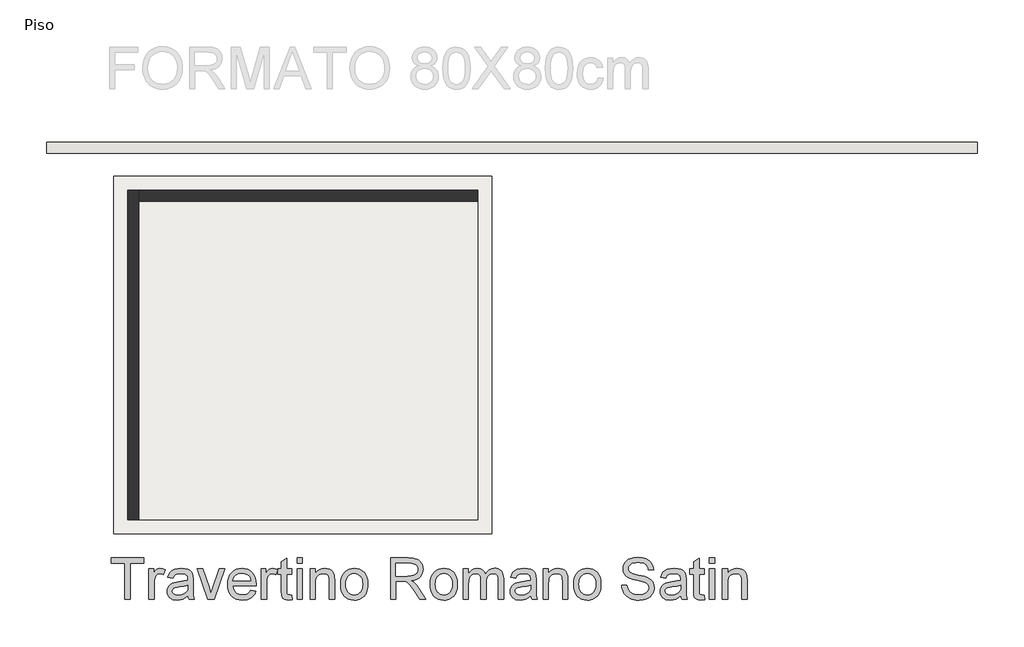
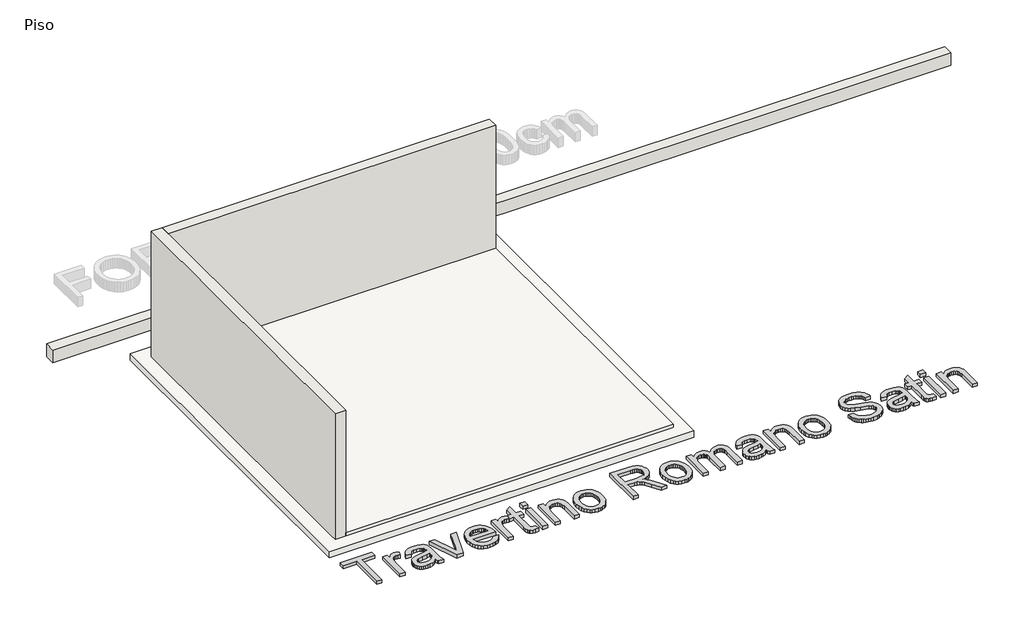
# One storey, part 1 of 2: 3 walls, 2 slabs, 1 proxy.
"""IFC4 building model written with IfcOpenShell, lengths in millimetres."""

from ifc_helpers import new_model, si_unit, frame, origin, origin_with_axes, place, context, project, spatial, polyline, outline, extrude, faceted_brep, element, save

model = new_model("IFC4")

# Units and contexts
model_context = context("Model", 3, world=origin())
ifc_project = project(units=[si_unit("LENGTHUNIT", "METRE", prefix="MILLI")], contexts=[model_context])

# Site, building, storey
site = spatial("IfcSite", under=ifc_project)
building = spatial("IfcBuilding", under=site)
storey = spatial("IfcBuildingStorey", under=building, Name="Piso", Elevation=0.0)

# Proxy
placement = place(None, origin())
element("IfcBuildingElementProxy", 1, Name="600mm Arial", ObjectType="600mm Arial", at=placement, inside=storey, context=model_context, shape_type="SweptSolid", body=[
    extrude(outline(polyline([(92823.490474, -4703.9716349), (92823.490474, -4176.5760066), (92625.7171133, -4176.5760066), (92625.7171133, -4101.233774), (93096.6060672, -4101.233774), (93096.6060672, -4176.5760066), (92898.8327066, -4176.5760066), (92898.8327066, -4703.9716349), (92823.490474, -4703.9716349)])), origin_with_axes(), (0.0, 0.0, 1.0), 50.0),
    extrude(outline(polyline([(93171.9482998, -4703.9716349), (93171.9482998, -4261.3360183), (93237.8727533, -4261.3360183), (93237.8727533, -4326.8190134), (93262.2265414, -4288.8535915), (93284.6673431, -4266.4863662), (93307.1817212, -4255.560271), (93331.7562385, -4251.9182392), (93369.280202, -4257.7307747), (93407.3927767, -4275.1683813), (93382.2296482, -4342.7115156), (93355.7421446, -4331.1232328), (93329.2546409, -4327.2604718), (93306.7586569, -4330.97608), (93286.6539059, -4342.1229044), (93270.4119158, -4359.8548166), (93259.5042146, -4383.3256879), (93250.343953, -4425.4113881), (93247.2905324, -4471.3230611), (93247.2905324, -4703.9716349), (93171.9482998, -4703.9716349)])), origin_with_axes(), (0.0, 0.0, 1.0), 50.0),
    extrude(outline(polyline([(93737.0150444, -4647.4649604), (93701.0177911, -4678.3302598), (93663.9536801, -4698.5269814), (93624.9765827, -4709.6738058), (93583.2403704, -4713.389414), (93549.694131, -4711.1545309), (93520.2773669, -4704.4498815), (93494.9900783, -4693.2754659), (93473.832265, -4677.631284), (93457.1258239, -4658.5106173), (93445.1926517, -4636.9067472), (93438.0327484, -4612.8196735), (93435.6461139, -4586.2493964), (93439.2513575, -4555.016215), (93450.0670881, -4526.6525132), (93466.7505366, -4502.3723015), (93487.9589336, -4483.3895906), (93512.8829388, -4469.0421928), (93540.7132118, -4458.6679205), (93605.9019013, -4447.3371551), (93682.9363911, -4435.4177784), (93736.573586, -4421.4382626), (93737.0150444, -4404.6628436), (93731.8279082, -4371.0384293), (93725.3439881, -4358.5856237), (93716.2664998, -4349.0390859), (93700.5763328, -4339.5109423), (93681.4648631, -4332.7051254), (93632.9780161, -4327.2604718), (93588.0964127, -4330.8841095), (93556.7528667, -4341.7550224), (93535.3789228, -4361.8597735), (93520.4061256, -4393.1849254), (93445.063893, -4383.7671463), (93458.1420979, -4342.5643628), (93477.6582378, -4310.1907473), (93505.4333284, -4285.432289), (93543.2883857, -4267.0749774), (93589.5863348, -4255.7074238), (93642.6901008, -4251.9182392), (93693.623363, -4255.2659654), (93733.998412, -4265.3091438), (93764.4406471, -4280.4106997), (93785.5754677, -4298.9335582), (93799.5917718, -4321.8342124), (93808.678457, -4350.0691555), (93812.357277, -4415.9936091), (93812.357277, -4509.7299414), (93816.1832497, -4640.6223553), (93821.8486325, -4672.9775768), (93831.1928351, -4703.9716349), (93755.8506025, -4703.9716349), (93743.7840731, -4677.7784368), (93737.0150444, -4647.4649604)]), holes=[polyline([(93737.0150444, -4496.7804952), (93686.3944818, -4509.3252712), (93615.4668332, -4519.8834845), (93550.6460256, -4532.0971667), (93533.7786361, -4540.448088), (93521.2890424, -4551.9627945), (93513.5635205, -4565.7583693), (93510.9883465, -4580.9518957), (93516.598547, -4603.3559092), (93533.4291482, -4621.7132208), (93561.1122684, -4633.9636912), (93599.2800254, -4638.0471814), (93639.7470449, -4633.5406269), (93675.5051748, -4620.0209636), (93704.494276, -4600.1001536), (93724.6542093, -4576.390159), (93733.5937418, -4551.9627945), (93736.573586, -4518.1176509), (93737.0150444, -4496.7804952)])]), origin_with_axes(), (0.0, 0.0, 1.0), 50.0),
    extrude(outline(polyline([(94024.5516118, -4703.9716349), (93868.8639514, -4261.3360183), (93948.620768, -4261.3360183), (94042.9457116, -4526.5053604), (94071.3462016, -4615.6799561), (94099.1580804, -4531.5085556), (94194.0716352, -4261.3360183), (94273.8284517, -4261.3360183), (94120.0537778, -4703.9716349), (94024.5516118, -4703.9716349)])), origin_with_axes(), (0.0, 0.0, 1.0), 50.0),
    extrude(outline(polyline([(94649.656698, -4572.1227278), (94723.5274026, -4581.5405069), (94712.2012357, -4611.1274164), (94696.9111403, -4637.2010528), (94677.6571164, -4659.7614161), (94654.4391639, -4678.8085064), (94627.4964063, -4693.9376535), (94597.0679668, -4704.7441871), (94563.1538454, -4711.2281073), (94525.754042, -4713.389414), (94479.0054375, -4709.6600102), (94437.3519986, -4698.4717991), (94400.7937253, -4679.8247804), (94369.3306177, -4653.7189544), (94344.0295335, -4620.8808878), (94325.9573305, -4582.0371476), (94315.1140086, -4537.1877339), (94311.499568, -4486.3326465), (94315.1507968, -4433.7531124), (94326.1044833, -4387.409178), (94344.3606273, -4347.3008435), (94369.9192289, -4313.4281088), (94401.2995631, -4286.5175409), (94437.0209048, -4267.2957066), (94477.0832541, -4255.7626061), (94521.4866109, -4251.9182392), (94564.4598265, -4255.753409), (94603.3219607, -4267.2589184), (94638.0730137, -4286.4347674), (94668.7129854, -4313.280956), (94693.7243625, -4347.0801143), (94711.5896319, -4387.1148725), (94722.3087935, -4433.3852304), (94725.8818474, -4485.8911882), (94725.440389, -4506.1982743), (94386.8418007, -4506.1982743), (94391.2058008, -4536.2634303), (94399.8832174, -4562.5945841), (94412.8740503, -4585.1917357), (94430.1782997, -4604.054885), (94450.8394722, -4618.9265147), (94473.9010748, -4629.5491073), (94499.3631074, -4635.9226628), (94527.22557, -4638.0471814), (94567.3247075, -4634.110844), (94601.0962746, -4622.301832), (94628.5402715, -4601.8843812), (94649.656698, -4572.1227278)]), holes=[polyline([(94386.8418007, -4430.8560417), (94650.5396148, -4430.8560417), (94640.3492835, -4391.0512098), (94631.584495, -4375.3978309), (94620.3732912, -4362.5771434), (94599.8270818, -4347.1260996), (94576.448181, -4336.0896397), (94550.2365888, -4329.4677638), (94521.1923053, -4327.2604718), (94494.7002031, -4329.0217069), (94470.4061959, -4334.305412), (94448.3102835, -4343.1115873), (94428.4124661, -4355.4402327), (94411.7152221, -4370.721131), (94399.2210298, -4388.3840653), (94390.9298893, -4408.4290355), (94386.8418007, -4430.8560417)])]), origin_with_axes(), (0.0, 0.0, 1.0), 50.0),
    extrude(outline(polyline([(94801.22408, -4703.9716349), (94801.22408, -4261.3360183), (94867.1485336, -4261.3360183), (94867.1485336, -4326.8190134), (94891.5023216, -4288.8535915), (94913.9431233, -4266.4863662), (94936.4575015, -4255.560271), (94961.0320187, -4251.9182392), (94998.5559822, -4257.7307747), (95036.6685569, -4275.1683813), (95011.5054285, -4342.7115156), (94985.0179248, -4331.1232328), (94958.5304212, -4327.2604718), (94936.0344372, -4330.97608), (94915.9296861, -4342.1229044), (94899.687696, -4359.8548166), (94888.7799949, -4383.3256879), (94879.6197332, -4425.4113881), (94876.5663126, -4471.3230611), (94876.5663126, -4703.9716349), (94801.22408, -4703.9716349)])), origin_with_axes(), (0.0, 0.0, 1.0), 50.0),
    extrude(outline(polyline([(95243.8596966, -4641.1373901), (95253.2774757, -4706.1789269), (95196.917954, -4713.389414), (95160.7551539, -4710.262417), (95133.7894037, -4700.8814261), (95114.7331163, -4686.4236637), (95102.2987049, -4668.0663522), (95095.4560998, -4636.5388652), (95093.1752314, -4582.5705765), (95093.1752314, -4336.6782509), (95036.6685569, -4336.6782509), (95036.6685569, -4275.1683813), (95036.6685569, -4261.3360183), (95093.1752314, -4261.3360183), (95093.1752314, -4153.7673229), (95168.517464, -4109.4743307), (95168.517464, -4261.3360183), (95243.8596966, -4261.3360183), (95243.8596966, -4336.6782509), (95168.517464, -4336.6782509), (95168.517464, -4580.3632845), (95172.4905896, -4619.2116232), (95185.3664594, -4632.9704098), (95196.2373723, -4636.7779885), (95211.0446227, -4638.0471814), (95243.8596966, -4641.1373901)])), origin_with_axes(), (0.0, 0.0, 1.0), 50.0),
    extrude(outline(polyline([(95319.2019292, -4176.5760066), (95319.2019292, -4101.233774), (95394.5441618, -4101.233774), (95394.5441618, -4176.5760066), (95319.2019292, -4176.5760066)])), origin_with_axes(), (0.0, 0.0, 1.0), 50.0),
    extrude(outline(polyline([(95319.2019292, -4703.9716349), (95319.2019292, -4261.3360183), (95394.5441618, -4261.3360183), (95394.5441618, -4703.9716349), (95319.2019292, -4703.9716349)])), origin_with_axes(), (0.0, 0.0, 1.0), 50.0),
    extrude(outline(polyline([(95507.5575108, -4703.9716349), (95507.5575108, -4261.3360183), (95582.8997434, -4261.3360183), (95582.8997434, -4323.1401935), (95609.0745473, -4291.9805885), (95640.5100638, -4269.7237278), (95677.2062928, -4256.3696114), (95719.1632344, -4251.9182392), (95756.3009218, -4255.5050887), (95790.3116123, -4266.265637), (95818.6753141, -4282.857115), (95838.8720356, -4303.9367533), (95852.5756399, -4329.4493697), (95861.4599901, -4359.3397818), (95865.4331157, -4432.1804169), (95865.4331157, -4703.9716349), (95790.0908831, -4703.9716349), (95790.0908831, -4442.3339599), (95787.9203793, -4403.3752566), (95781.408868, -4375.6737424), (95769.3975208, -4355.8265088), (95750.7275096, -4340.4306473), (95726.7967858, -4330.5530157), (95699.0033011, -4327.2604718), (95676.1256395, -4329.1090789), (95654.8758557, -4334.6548999), (95635.2539498, -4343.8979351), (95617.2599217, -4356.8381842), (95602.2273437, -4374.9471755), (95591.489788, -4399.6964367), (95585.0472545, -4431.0859679), (95582.8997434, -4469.1157692), (95582.8997434, -4703.9716349), (95507.5575108, -4703.9716349)])), origin_with_axes(), (0.0, 0.0, 1.0), 50.0),
    extrude(outline(polyline([(95950.1931274, -4482.6538266), (95954.2674205, -4425.3286147), (95966.4902997, -4375.9312598), (95986.8617652, -4334.4617619), (96015.3818169, -4300.920121), (96044.0950066, -4279.4817977), (96075.7880405, -4264.1687097), (96110.4609186, -4254.9808568), (96148.1136408, -4251.9182392), (96189.6797077, -4255.6476429), (96227.263452, -4266.8358541), (96260.8648738, -4285.4828728), (96290.4839729, -4311.5886988), (96314.6584185, -4344.2704156), (96331.9258797, -4382.6451062), (96342.2863563, -4426.7127707), (96345.7398486, -4476.4734091), (96344.2131383, -4516.8024728), (96339.6330075, -4552.5881939), (96331.9994561, -4583.8305723), (96321.3124841, -4610.5296081), (96307.7054488, -4633.5912107), (96291.3117074, -4653.9212895), (96272.1312599, -4671.5198444), (96250.1641062, -4686.3868755), (96226.2655721, -4698.2004861), (96201.2909832, -4706.6387794), (96175.2403394, -4711.7017553), (96148.1136408, -4713.389414), (96105.9405685, -4709.6738058), (96068.0073363, -4698.5269814), (96034.3139441, -4679.9489406), (96004.8603918, -4653.9396836), (95980.9434636, -4620.9406686), (95963.8599435, -4581.3933541), (95953.6098314, -4535.2977401), (95950.1931274, -4482.6538266)]), holes=[polyline([(96025.53536, -4482.5066738), (96027.7150608, -4519.0511515), (96034.2541633, -4550.6936016), (96045.1526674, -4577.4340241), (96060.4105731, -4599.2724191), (96078.9702198, -4616.2363776), (96099.7739466, -4628.3534908), (96122.8217536, -4635.6237587), (96148.1136408, -4638.0471814), (96173.2767692, -4635.6099631), (96196.2326057, -4628.2983085), (96216.9811503, -4616.1122174), (96235.5224028, -4599.0516899), (96250.7803086, -4576.9971643), (96261.6788127, -4549.8290789), (96268.2179151, -4517.5474338), (96270.397616, -4480.152229), (96268.2041196, -4444.7665796), (96261.6236304, -4413.951864), (96250.6561484, -4387.7080822), (96235.3016736, -4366.0352341), (96216.6914432, -4349.0712756), (96195.9566942, -4336.9541624), (96173.0974268, -4329.6838945), (96148.1136408, -4327.2604718), (96122.8217536, -4329.6746974), (96099.7739466, -4336.9173742), (96078.9702198, -4348.9885022), (96060.4105731, -4365.8880813), (96045.1526674, -4387.6620969), (96034.2541633, -4414.3565342), (96027.7150608, -4445.9713932), (96025.53536, -4482.5066738)])]), origin_with_axes(), (0.0, 0.0, 1.0), 50.0),
    extrude(outline(polyline([(96675.3621163, -4703.9716349), (96675.3621163, -4101.233774), (96935.0868048, -4101.233774), (97004.8924134, -4105.29887), (97055.6785229, -4117.4941582), (97075.2774362, -4127.1878488), (97092.7978162, -4140.0085363), (97108.2396629, -4155.9562208), (97121.6029764, -4175.0309022), (97132.3865174, -4196.2071096), (97140.0890467, -4218.4593718), (97144.7105642, -4241.7876888), (97146.2510701, -4266.1920606), (97143.6988887, -4297.1493305), (97136.0423447, -4325.5682147), (97123.281438, -4351.448713), (97105.4161686, -4374.7908256), (97082.2166103, -4394.8495914), (97053.4528368, -4410.8800493), (97019.1248481, -4422.8821994), (96979.2326443, -4430.8560417), (97004.0646789, -4447.0796377), (97022.0541085, -4463.0825045), (97052.9194079, -4499.686763), (97083.1225197, -4540.632029), (97183.6278808, -4703.9716349), (97096.0719659, -4703.9716349), (97017.6395246, -4579.0389093), (96960.9856973, -4496.3390368), (96939.9244531, -4472.224372), (96921.1808654, -4457.2699689), (96885.3491591, -4442.9225711), (96841.6447781, -4440.2738208), (96750.7043489, -4440.2738208), (96750.7043489, -4703.9716349), (96675.3621163, -4703.9716349)]), holes=[polyline([(96750.7043489, -4364.9315881), (96919.3414555, -4364.9315881), (96967.7731201, -4362.2644437), (97005.3522659, -4354.2630103), (97033.6423914, -4340.3938591), (97054.2069949, -4320.1235611), (97066.7333768, -4295.6042262), (97070.9088375, -4268.9879638), (97068.9176762, -4249.7201443), (97062.9441923, -4232.2365525), (97052.9883858, -4216.5371883), (97039.0502567, -4202.6220519), (97020.8079082, -4191.2269071), (96997.9394437, -4183.0875179), (96970.4448631, -4178.2038844), (96938.3241664, -4176.5760066), (96750.7043489, -4176.5760066), (96750.7043489, -4364.9315881)])]), origin_with_axes(), (0.0, 0.0, 1.0), 50.0),
    extrude(outline(polyline([(97249.8466399, -4482.6538266), (97253.920933, -4425.3286147), (97266.1438123, -4375.9312598), (97286.5152778, -4334.4617619), (97315.0353295, -4300.920121), (97343.7485192, -4279.4817977), (97375.4415531, -4264.1687097), (97410.1144311, -4254.9808568), (97447.7671533, -4251.9182392), (97489.3332203, -4255.6476429), (97526.9169646, -4266.8358541), (97560.5183863, -4285.4828728), (97590.1374855, -4311.5886988), (97614.3119311, -4344.2704156), (97631.5793922, -4382.6451062), (97641.9398689, -4426.7127707), (97645.3933611, -4476.4734091), (97643.8666509, -4516.8024728), (97639.28652, -4552.5881939), (97631.6529686, -4583.8305723), (97620.9659967, -4610.5296081), (97607.3589614, -4633.5912107), (97590.9652199, -4653.9212895), (97571.7847724, -4671.5198444), (97549.8176188, -4686.3868755), (97525.9190847, -4698.2004861), (97500.9444957, -4706.6387794), (97474.8938519, -4711.7017553), (97447.7671533, -4713.389414), (97405.5940811, -4709.6738058), (97367.6608489, -4698.5269814), (97333.9674566, -4679.9489406), (97304.5139044, -4653.9396836), (97280.5969762, -4620.9406686), (97263.513456, -4581.3933541), (97253.263344, -4535.2977401), (97249.8466399, -4482.6538266)]), holes=[polyline([(97325.1888725, -4482.5066738), (97327.3685734, -4519.0511515), (97333.9076758, -4550.6936016), (97344.8061799, -4577.4340241), (97360.0640857, -4599.2724191), (97378.6237323, -4616.2363776), (97399.4274592, -4628.3534908), (97422.4752662, -4635.6237587), (97447.7671533, -4638.0471814), (97472.9302818, -4635.6099631), (97495.8861183, -4628.2983085), (97516.6346628, -4616.1122174), (97535.1759154, -4599.0516899), (97550.4338211, -4576.9971643), (97561.3323252, -4549.8290789), (97567.8714277, -4517.5474338), (97570.0511285, -4480.152229), (97567.8576321, -4444.7665796), (97561.2771429, -4413.951864), (97550.309661, -4387.7080822), (97534.9551862, -4366.0352341), (97516.3449558, -4349.0712756), (97495.6102068, -4336.9541624), (97472.7509393, -4329.6838945), (97447.7671533, -4327.2604718), (97422.4752662, -4329.6746974), (97399.4274592, -4336.9173742), (97378.6237323, -4348.9885022), (97360.0640857, -4365.8880813), (97344.8061799, -4387.6620969), (97333.9076758, -4414.3565342), (97327.3685734, -4445.9713932), (97325.1888725, -4482.5066738)])]), origin_with_axes(), (0.0, 0.0, 1.0), 50.0),
    extrude(outline(polyline([(97730.1533728, -4703.9716349), (97730.1533728, -4261.3360183), (97805.4956054, -4261.3360183), (97805.4956054, -4334.1766533), (97828.1571363, -4300.7177859), (97857.2933904, -4274.5061937), (97891.9110861, -4257.5652278), (97931.0169422, -4251.9182392), (97972.9187014, -4257.6755924), (97990.7517812, -4264.872284), (98006.5063276, -4274.9476521), (98031.5958797, -4302.5939841), (98048.0034167, -4339.4741541), (98075.4658076, -4301.1684413), (98106.7909595, -4273.8072179), (98141.9788723, -4257.3904839), (98181.0295461, -4251.9182392), (98211.1912712, -4254.1945091), (98237.6649793, -4261.0233186), (98260.4506703, -4272.4046678), (98279.5483444, -4288.3385567), (98294.6453018, -4309.0089263), (98305.4288428, -4334.5997176), (98311.8989674, -4365.1109306), (98314.0556756, -4400.5425653), (98314.0556756, -4703.9716349), (98238.713443, -4703.9716349), (98238.713443, -4432.9161809), (98236.9660035, -4395.337035), (98231.723685, -4370.0083597), (98221.9012358, -4352.6627236), (98206.4134038, -4339.0326957), (98186.4925937, -4330.2035278), (98163.3712103, -4327.2604718), (98142.020259, -4329.1458671), (98122.554703, -4334.8020527), (98104.9745421, -4344.2290289), (98089.2797765, -4357.4267954), (98076.371717, -4374.7816286), (98067.1516745, -4396.6798043), (98061.619649, -4423.1213227), (98059.7756405, -4454.1061838), (98059.7756405, -4703.9716349), (97984.4334079, -4703.9716349), (97984.4334079, -4424.5284714), (97980.0740062, -4381.9277363), (97974.6247542, -4365.2074996), (97966.9958013, -4351.5406835), (97956.883645, -4340.9180909), (97943.9847825, -4333.3305248), (97928.299214, -4328.7779851), (97909.8269393, -4327.2604718), (97880.8010498, -4331.3071738), (97854.0560288, -4343.4472796), (97831.9831091, -4363.3864838), (97816.9735237, -4390.8304806), (97808.365085, -4428.9062671), (97805.4956054, -4480.7408402), (97805.4956054, -4703.9716349), (97730.1533728, -4703.9716349)])), origin_with_axes(), (0.0, 0.0, 1.0), 50.0),
    extrude(outline(polyline([(98709.6023968, -4647.4649604), (98673.6051436, -4678.3302598), (98636.5410325, -4698.5269814), (98597.5639352, -4709.6738058), (98555.8277228, -4713.389414), (98522.2814834, -4711.1545309), (98492.8647193, -4704.4498815), (98467.5774307, -4693.2754659), (98446.4196174, -4677.631284), (98429.7131763, -4658.5106173), (98417.7800041, -4636.9067472), (98410.6201008, -4612.8196735), (98408.2334663, -4586.2493964), (98411.8387099, -4555.016215), (98422.6544405, -4526.6525132), (98439.337889, -4502.3723015), (98460.546286, -4483.3895906), (98485.4702912, -4469.0421928), (98513.3005642, -4458.6679205), (98578.4892537, -4447.3371551), (98655.5237435, -4435.4177784), (98709.1609384, -4421.4382626), (98709.6023968, -4404.6628436), (98704.4152607, -4371.0384293), (98697.9313405, -4358.5856237), (98688.8538523, -4349.0390859), (98673.1636852, -4339.5109423), (98654.0522155, -4332.7051254), (98605.5653685, -4327.2604718), (98560.6837651, -4330.8841095), (98529.3402191, -4341.7550224), (98507.9662752, -4361.8597735), (98492.993478, -4393.1849254), (98417.6512454, -4383.7671463), (98430.7294503, -4342.5643628), (98450.2455902, -4310.1907473), (98478.0206808, -4285.432289), (98515.8757381, -4267.0749774), (98562.1736872, -4255.7074238), (98615.2774532, -4251.9182392), (98666.2107155, -4255.2659654), (98706.5857644, -4265.3091438), (98737.0279995, -4280.4106997), (98758.1628201, -4298.9335582), (98772.1791242, -4321.8342124), (98781.2658094, -4350.0691555), (98784.9446294, -4415.9936091), (98784.9446294, -4509.7299414), (98788.7706021, -4640.6223553), (98794.4359849, -4672.9775768), (98803.7801875, -4703.9716349), (98728.4379549, -4703.9716349), (98716.3714255, -4677.7784368), (98709.6023968, -4647.4649604)]), holes=[polyline([(98709.6023968, -4496.7804952), (98658.9818342, -4509.3252712), (98588.0541856, -4519.8834845), (98523.233378, -4532.0971667), (98506.3659885, -4540.448088), (98493.8763948, -4551.9627945), (98486.1508729, -4565.7583693), (98483.5756989, -4580.9518957), (98489.1858994, -4603.3559092), (98506.0165007, -4621.7132208), (98533.6996208, -4633.9636912), (98571.8673778, -4638.0471814), (98612.3343973, -4633.5406269), (98648.0925272, -4620.0209636), (98677.0816284, -4600.1001536), (98697.2415617, -4576.390159), (98706.1810942, -4551.9627945), (98709.1609384, -4518.1176509), (98709.6023968, -4496.7804952)])]), origin_with_axes(), (0.0, 0.0, 1.0), 50.0),
    extrude(outline(polyline([(98888.5401992, -4703.9716349), (98888.5401992, -4261.3360183), (98963.8824318, -4261.3360183), (98963.8824318, -4323.1401935), (98990.0572358, -4291.9805885), (99021.4927523, -4269.7237278), (99058.1889813, -4256.3696114), (99100.1459229, -4251.9182392), (99137.2836103, -4255.5050887), (99171.2943007, -4266.265637), (99199.6580026, -4282.857115), (99219.8547241, -4303.9367533), (99233.5583284, -4329.4493697), (99242.4426786, -4359.3397818), (99246.4158041, -4432.1804169), (99246.4158041, -4703.9716349), (99171.0735715, -4703.9716349), (99171.0735715, -4442.3339599), (99168.9030678, -4403.3752566), (99162.3915564, -4375.6737424), (99150.3802093, -4355.8265088), (99131.710198, -4340.4306473), (99107.7794743, -4330.5530157), (99079.9859895, -4327.2604718), (99057.108328, -4329.1090789), (99035.8585442, -4334.6548999), (99016.2366383, -4343.8979351), (98998.2426102, -4356.8381842), (98983.2100322, -4374.9471755), (98972.4724764, -4399.6964367), (98966.029943, -4431.0859679), (98963.8824318, -4469.1157692), (98963.8824318, -4703.9716349), (98888.5401992, -4703.9716349)])), origin_with_axes(), (0.0, 0.0, 1.0), 50.0),
    extrude(outline(polyline([(99331.1758158, -4482.6538266), (99335.2501089, -4425.3286147), (99347.4729882, -4375.9312598), (99367.8444537, -4334.4617619), (99396.3645054, -4300.920121), (99425.0776951, -4279.4817977), (99456.770729, -4264.1687097), (99491.443607, -4254.9808568), (99529.0963292, -4251.9182392), (99570.6623962, -4255.6476429), (99608.2461405, -4266.8358541), (99641.8475622, -4285.4828728), (99671.4666614, -4311.5886988), (99695.641107, -4344.2704156), (99712.9085681, -4382.6451062), (99723.2690448, -4426.7127707), (99726.722537, -4476.4734091), (99725.1958268, -4516.8024728), (99720.6156959, -4552.5881939), (99712.9821445, -4583.8305723), (99702.2951726, -4610.5296081), (99688.6881373, -4633.5912107), (99672.2943959, -4653.9212895), (99653.1139483, -4671.5198444), (99631.1467947, -4686.3868755), (99607.2482606, -4698.2004861), (99582.2736716, -4706.6387794), (99556.2230279, -4711.7017553), (99529.0963292, -4713.389414), (99486.923257, -4709.6738058), (99448.9900248, -4698.5269814), (99415.2966326, -4679.9489406), (99385.8430803, -4653.9396836), (99361.9261521, -4620.9406686), (99344.842632, -4581.3933541), (99334.5925199, -4535.2977401), (99331.1758158, -4482.6538266)]), holes=[polyline([(99406.5180484, -4482.5066738), (99408.6977493, -4519.0511515), (99415.2368517, -4550.6936016), (99426.1353558, -4577.4340241), (99441.3932616, -4599.2724191), (99459.9529082, -4616.2363776), (99480.7566351, -4628.3534908), (99503.8044421, -4635.6237587), (99529.0963292, -4638.0471814), (99554.2594577, -4635.6099631), (99577.2152942, -4628.2983085), (99597.9638387, -4616.1122174), (99616.5050913, -4599.0516899), (99631.762997, -4576.9971643), (99642.6615011, -4549.8290789), (99649.2006036, -4517.5474338), (99651.3803044, -4480.152229), (99649.186808, -4444.7665796), (99642.6063189, -4413.951864), (99631.6388369, -4387.7080822), (99616.2843621, -4366.0352341), (99597.6741317, -4349.0712756), (99576.9393827, -4336.9541624), (99554.0801152, -4329.6838945), (99529.0963292, -4327.2604718), (99503.8044421, -4329.6746974), (99480.7566351, -4336.9173742), (99459.9529082, -4348.9885022), (99441.3932616, -4365.8880813), (99426.1353558, -4387.6620969), (99415.2368517, -4414.3565342), (99408.6977493, -4445.9713932), (99406.5180484, -4482.5066738)])]), origin_with_axes(), (0.0, 0.0, 1.0), 50.0),
    extrude(outline(polyline([(100028.0914675, -4496.7804952), (100103.4337001, -4496.7804952), (100112.078927, -4538.590284), (100127.7139118, -4572.1963042), (100152.1044881, -4598.8677489), (100187.0164894, -4619.8738108), (100229.6908009, -4633.5038387), (100277.3683074, -4638.0471814), (100319.3436431, -4634.6074847), (100356.0950544, -4624.2883947), (100385.8751019, -4607.9544342), (100406.9363461, -4586.4701256), (100419.4627281, -4561.8036379), (100423.6381887, -4535.9231395), (100420.5111918, -4510.7048287), (100411.1302009, -4488.9078205), (100392.0739135, -4470.3113857), (100359.9210271, -4454.694795), (100250.2186162, -4425.9264229), (100178.2057156, -4406.8885297), (100132.1284957, -4388.7703414), (100094.6229263, -4363.423272), (100068.0434522, -4332.7051254), (100052.2061323, -4297.2780892), (100046.9270256, -4257.8043511), (100048.559502, -4235.368148), (100053.4569311, -4213.6769058), (100061.6193128, -4192.7306247), (100073.0466473, -4172.5293047), (100087.6101758, -4153.8960816), (100105.1811396, -4137.6540915), (100125.7595387, -4123.8033344), (100149.3453731, -4112.3438103), (100202.3571686, -4096.9479488), (100261.0343468, -4091.8159949), (100324.6043556, -4097.1870721), (100380.2281133, -4113.3003034), (100404.5635073, -4125.3024535), (100425.9190571, -4139.8245953), (100444.2947627, -4156.8667287), (100459.6906242, -4176.4288538), (100471.9870799, -4197.9407535), (100481.0645682, -4220.8322106), (100486.9230889, -4245.1032253), (100489.5626422, -4270.7537974), (100414.2204096, -4270.7537974), (100409.1804263, -4246.712709), (100400.3880466, -4225.7986176), (100387.8432706, -4208.0115231), (100371.5460982, -4193.3514256), (100351.1930268, -4181.8919014), (100326.4805538, -4173.706527), (100297.4086791, -4168.7953024), (100263.9774028, -4167.1582275), (100229.4792687, -4168.7769083), (100200.0027238, -4173.6329506), (100175.5477682, -4181.7263545), (100156.1144018, -4193.05712), (100141.3071515, -4206.6779509), (100130.7305442, -4221.641551), (100124.3845797, -4237.9479205), (100122.2692583, -4255.5970592), (100123.7683774, -4270.7813885), (100128.2657348, -4284.5493722), (100135.7613304, -4296.9010102), (100146.2551643, -4307.8363025), (100162.7730659, -4318.1921807), (100188.782323, -4328.6584234), (100269.2749035, -4349.9220027), (100352.342658, -4370.1187243), (100402.5953386, -4387.7402718), (100445.5455615, -4415.0739041), (100462.1508351, -4431.1411502), (100475.50955, -4448.808683), (100485.7780562, -4467.984532), (100493.1127035, -4488.5767267), (100498.9804213, -4534.0101531), (100497.2927627, -4557.5775934), (100492.2297867, -4580.455255), (100483.7914934, -4602.6431378), (100471.9778829, -4624.1412419), (100456.9958886, -4644.1172343), (100439.0524443, -4661.7387819), (100418.1475499, -4677.0058846), (100394.2812055, -4689.9185427), (100368.1477883, -4700.1870489), (100340.4416755, -4707.5216961), (100280.3113634, -4713.389414), (100241.7711259, -4711.8075214), (100206.4958411, -4707.0618437), (100174.485509, -4699.1523808), (100145.7401296, -4688.0791327), (100120.0849589, -4673.8237054), (100097.3452531, -4656.3677047), (100077.5210121, -4635.7111307), (100060.6122359, -4611.8539833), (100046.991405, -4585.5688147), (100037.031, -4557.6281772), (100030.7310208, -4528.0320707), (100028.0914675, -4496.7804952)])), origin_with_axes(), (0.0, 0.0, 1.0), 50.0),
    extrude(outline(polyline([(100885.1093635, -4647.4649604), (100849.1121102, -4678.3302598), (100812.0479992, -4698.5269814), (100773.0709018, -4709.6738058), (100731.3346895, -4713.389414), (100697.78845, -4711.1545309), (100668.371686, -4704.4498815), (100643.0843974, -4693.2754659), (100621.9265841, -4677.631284), (100605.220143, -4658.5106173), (100593.2869708, -4636.9067472), (100586.1270675, -4612.8196735), (100583.740433, -4586.2493964), (100587.3456766, -4555.016215), (100598.1614072, -4526.6525132), (100614.8448557, -4502.3723015), (100636.0532527, -4483.3895906), (100660.9772579, -4469.0421928), (100688.8075308, -4458.6679205), (100753.9962204, -4447.3371551), (100831.0307102, -4435.4177784), (100884.6679051, -4421.4382626), (100885.1093635, -4404.6628436), (100879.9222273, -4371.0384293), (100873.4383072, -4358.5856237), (100864.3608189, -4349.0390859), (100848.6706518, -4339.5109423), (100829.5591822, -4332.7051254), (100781.0723352, -4327.2604718), (100736.1907318, -4330.8841095), (100704.8471858, -4341.7550224), (100683.4732419, -4361.8597735), (100668.5004447, -4393.1849254), (100593.1582121, -4383.7671463), (100606.236417, -4342.5643628), (100625.7525569, -4310.1907473), (100653.5276475, -4285.432289), (100691.3827048, -4267.0749774), (100737.6806539, -4255.7074238), (100790.7844199, -4251.9182392), (100841.7176821, -4255.2659654), (100882.0927311, -4265.3091438), (100912.5349662, -4280.4106997), (100933.6697868, -4298.9335582), (100947.6860908, -4321.8342124), (100956.7727761, -4350.0691555), (100960.4515961, -4415.9936091), (100960.4515961, -4509.7299414), (100964.2775688, -4640.6223553), (100969.9429515, -4672.9775768), (100979.2871542, -4703.9716349), (100903.9449216, -4703.9716349), (100891.8783922, -4677.7784368), (100885.1093635, -4647.4649604)]), holes=[polyline([(100885.1093635, -4496.7804952), (100834.4888009, -4509.3252712), (100763.5611523, -4519.8834845), (100698.7403447, -4532.0971667), (100681.8729552, -4540.448088), (100669.3833615, -4551.9627945), (100661.6578396, -4565.7583693), (100659.0826656, -4580.9518957), (100664.6928661, -4603.3559092), (100681.5234673, -4621.7132208), (100709.2065875, -4633.9636912), (100747.3743445, -4638.0471814), (100787.8413639, -4633.5406269), (100823.5994939, -4620.0209636), (100852.5885951, -4600.1001536), (100872.7485284, -4576.390159), (100881.6880609, -4551.9627945), (100884.6679051, -4518.1176509), (100885.1093635, -4496.7804952)])]), origin_with_axes(), (0.0, 0.0, 1.0), 50.0),
    extrude(outline(polyline([(101224.1494102, -4641.1373901), (101233.5671893, -4706.1789269), (101177.2076676, -4713.389414), (101141.0448675, -4710.262417), (101114.0791173, -4700.8814261), (101095.0228299, -4686.4236637), (101082.5884185, -4668.0663522), (101075.7458134, -4636.5388652), (101073.464945, -4582.5705765), (101073.464945, -4336.6782509), (101016.9582705, -4336.6782509), (101016.9582705, -4261.3360183), (101073.464945, -4261.3360183), (101073.464945, -4153.7673229), (101148.8071776, -4109.4743307), (101148.8071776, -4261.3360183), (101224.1494102, -4261.3360183), (101224.1494102, -4336.6782509), (101148.8071776, -4336.6782509), (101148.8071776, -4580.3632845), (101152.7803032, -4619.2116232), (101165.656173, -4632.9704098), (101176.5270859, -4636.7779885), (101191.3343362, -4638.0471814), (101224.1494102, -4641.1373901)])), origin_with_axes(), (0.0, 0.0, 1.0), 50.0),
    extrude(outline(polyline([(101299.4916428, -4176.5760066), (101299.4916428, -4101.233774), (101374.8338754, -4101.233774), (101374.8338754, -4176.5760066), (101299.4916428, -4176.5760066)])), origin_with_axes(), (0.0, 0.0, 1.0), 50.0),
    extrude(outline(polyline([(101299.4916428, -4703.9716349), (101299.4916428, -4261.3360183), (101374.8338754, -4261.3360183), (101374.8338754, -4703.9716349), (101299.4916428, -4703.9716349)])), origin_with_axes(), (0.0, 0.0, 1.0), 50.0),
    extrude(outline(polyline([(101487.8472244, -4703.9716349), (101487.8472244, -4261.3360183), (101563.189457, -4261.3360183), (101563.189457, -4323.1401935), (101589.3642609, -4291.9805885), (101620.7997774, -4269.7237278), (101657.4960064, -4256.3696114), (101699.452948, -4251.9182392), (101736.5906354, -4255.5050887), (101770.6013259, -4266.265637), (101798.9650277, -4282.857115), (101819.1617492, -4303.9367533), (101832.8653535, -4329.4493697), (101841.7497037, -4359.3397818), (101845.7228293, -4432.1804169), (101845.7228293, -4703.9716349), (101770.3805967, -4703.9716349), (101770.3805967, -4442.3339599), (101768.2100929, -4403.3752566), (101761.6985816, -4375.6737424), (101749.6872344, -4355.8265088), (101731.0172232, -4340.4306473), (101707.0864994, -4330.5530157), (101679.2930146, -4327.2604718), (101656.4153531, -4329.1090789), (101635.1655693, -4334.6548999), (101615.5436634, -4343.8979351), (101597.5496353, -4356.8381842), (101582.5170573, -4374.9471755), (101571.7795016, -4399.6964367), (101565.3369681, -4431.0859679), (101563.189457, -4469.1157692), (101563.189457, -4703.9716349), (101487.8472244, -4703.9716349)])), origin_with_axes(), (0.0, 0.0, 1.0), 50.0),
])

# Slabs
element("IfcSlab", 2, ObjectType="5cm - Porcelanato Travertino Romano Satin  - Acetinado 80x80", at=placement, inside=storey, context=model_context, shape_type="SweptSolid", body=[
    extrude(outline(polyline([(97942.4962356, 1072.1619964), (97942.4962356, -3548.4380036), (93021.8962356, -3548.4380036), (93021.8962356, 1072.1619964), (97942.4962356, 1072.1619964)])), origin_with_axes(), (0.0, 0.0, 1.0), 50.0),
])
element("IfcSlab", 3, ObjectType="CO02 - Concreto Estrutural Simples", at=placement, inside=storey, context=model_context, shape_type="SweptSolid", body=[
    extrude(outline(polyline([(98142.4962356, 1430.9619964), (98142.4962356, -3748.4380036), (92663.0962356, -3748.4380036), (92663.0962356, 1430.9619964), (98142.4962356, 1430.9619964)])), frame((0.0, 0.0, -100.0), z_axis=(0.0, 0.0, 1.0), x_axis=(1.0, 0.0, 0.0)), (0.0, 0.0, 1.0), 100.0),
])

# Walls
element("IfcWall", 4, ObjectType="CO01 - Bloco de Concreto 14cm / Pintura Branca Simples", at=placement, inside=storey, context=model_context, shape_type="SweptSolid", body=[
    extrude(outline(polyline([(105186.699165, 1765.7486968), (91686.699165, 1765.7486968), (91686.699165, 1924.5486968), (105186.699165, 1924.5486968), (105186.699165, 1765.7486968)])), origin_with_axes(), (0.0, 0.0, 1.0), 200.0),
])
element("IfcWall", 5, ObjectType="CO01 - Bloco de Concreto 14cm / Pintura Branca Simples", at=placement, inside=storey, context=model_context, shape_type="Brep", body=[
    faceted_brep([(93021.8962356, -3548.4380036, 0.0), (93021.8962356, 1072.1619964, 0.0), (93021.8962356, 1230.9619964, 0.0), (93021.8962356, 1230.9619964, 2000.0), (93021.8962356, 1072.1619964, 2000.0), (93021.8962356, -3548.4380036, 2000.0), (92863.0962356, -3548.4380036, 0.0), (92863.0962356, -3548.4380036, 2000.0), (92863.0962356, 1230.9619964, 2000.0), (92863.0962356, 1230.9619964, 0.0)], [[[0, 1, 2, 3, 4, 5]], [[6, 7, 8, 9]], [[2, 1, 0, 6, 9]], [[5, 4, 3, 8, 7]], [[0, 5, 7, 6]], [[3, 2, 9, 8]]]),
])
element("IfcWall", 6, ObjectType="CO01 - Bloco de Concreto 14cm / Pintura Branca Simples", at=placement, inside=storey, context=model_context, shape_type="SweptSolid", body=[
    extrude(outline(polyline([(97942.4962356, 1072.1619964), (93021.8962356, 1072.1619964), (93021.8962356, 1230.9619964), (97942.4962356, 1230.9619964), (97942.4962356, 1072.1619964)])), origin_with_axes(), (0.0, 0.0, 1.0), 2000.0),
])

save(model, "model.ifc")
